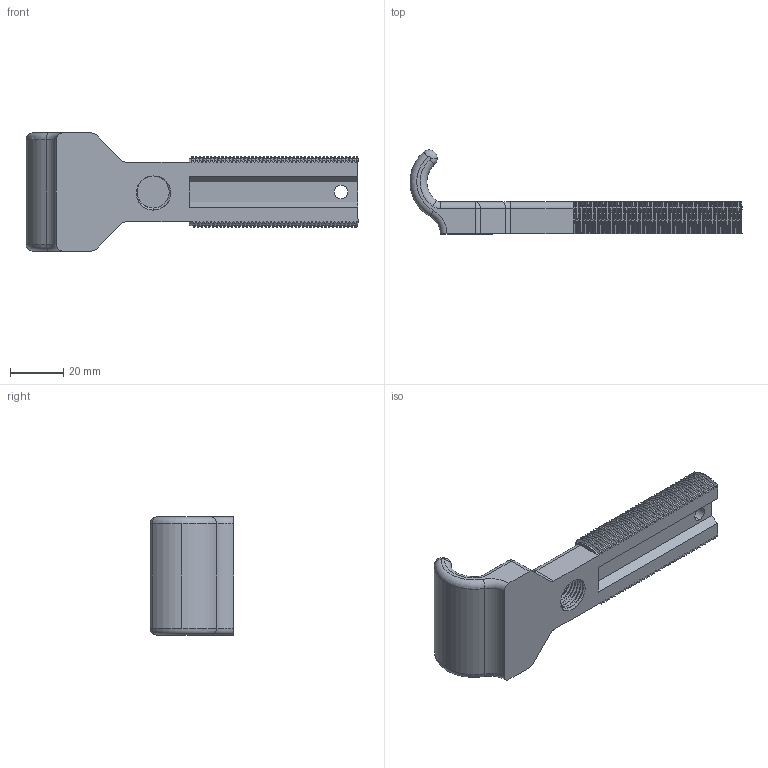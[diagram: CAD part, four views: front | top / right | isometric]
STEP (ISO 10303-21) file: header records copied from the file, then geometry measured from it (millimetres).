
FILE_DESCRIPTION (( 'STEP AP214' ), '1' );
FILE_NAME ('Main Holder.STEP', '2022-07-18T01:58:16', ( '' ), ( '' ), 'SwSTEP 2.0', 'SolidWorks 2021', '' );
FILE_SCHEMA (( 'AUTOMOTIVE_DESIGN' ));
Length unit declared in the file: inch
Products named in the file (1): Main Holder
Bounding box: 125.02 x 31.58 x 44.45 mm (x, y, z)
Volume: 40116.4 mm3; surface area: 14243.7 mm2
Topology: 1 solids, 1 shells, 477 faces, 1400 edges, 924 vertices
Faces by surface type: bspline 271, cylinder 169, plane 21, torus 14, sphere 2
Entity records: 404142 total; most frequent: CARTESIAN_POINT 395130, ORIENTED_EDGE 2796, EDGE_CURVE 1398, VERTEX_POINT 924, DIRECTION 871, EDGE_LOOP 480, ADVANCED_FACE 477, FACE_OUTER_BOUND 477
